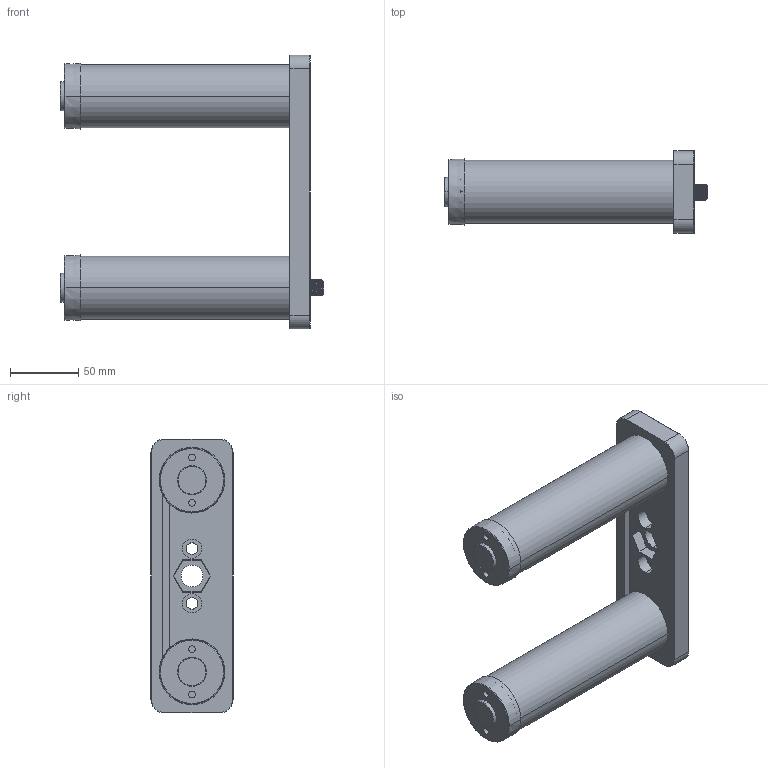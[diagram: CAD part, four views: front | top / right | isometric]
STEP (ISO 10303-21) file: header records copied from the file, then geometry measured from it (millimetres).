
FILE_DESCRIPTION((''),'2;1');
FILE_NAME('ASM_ESCH_0001_ASM','2022-12-08T12:03:04',('18682169268'),(''),'CREO PARAMETRIC BY PTC INC, 2019010','CREO PARAMETRIC BY PTC INC, 2019010','');
FILE_SCHEMA(('AUTOMOTIVE_DESIGN { 1 0 10303 214 1 1 1 1 }'));
Length unit declared in the file: millimetre
Products named in the file (6): ESCH000; ELG--00; ESF--000; 5M120001; ESF--0002; ASM_ESCH_0001_ASM
Assembly tree (8 placements, depth 2):
  ASM_ESCH_0001_ASM
    ESCH000
    ELG--00  x2
    ESF--000  x2
    5M120001
    ESF--0002  x2
Bounding box: 192.5 x 60 x 200 mm (x, y, z)
Volume: 536178.7 mm3; surface area: 200680.6 mm2
Topology: 8 solids, 8 shells, 601 faces, 1663 edges, 1106 vertices
Faces by surface type: plane 244, cylinder 227, cone 92, torus 16, bspline 12, sphere 10
Entity records: 25954 total; most frequent: CARTESIAN_POINT 10491, DIRECTION 2430, ORIENTED_EDGE 2346, PRESENTATION_STYLE_ASSIGNMENT 1187, STYLED_ITEM 1185, CURVE_STYLE 1180, EDGE_CURVE 1173, AXIS2_PLACEMENT_3D 974
